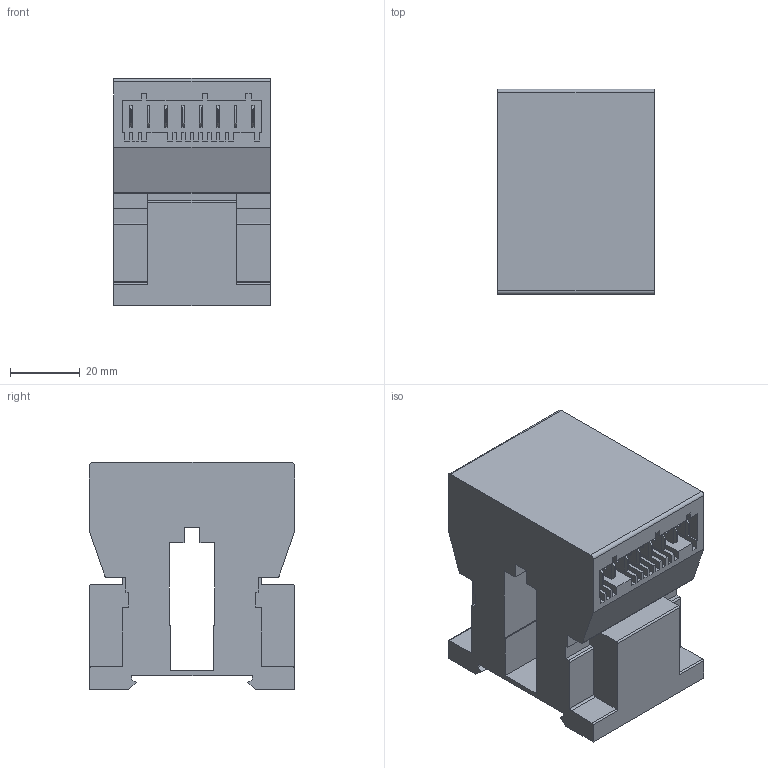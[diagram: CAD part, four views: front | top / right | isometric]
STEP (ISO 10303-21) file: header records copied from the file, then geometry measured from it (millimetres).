
FILE_DESCRIPTION (( 'STEP AP203' ), '1' );
FILE_NAME ('K3-10R B04B03B04.STEP', '2012-04-13T09:20:23', ( 'schulung' ), ( 'Microsoft' ), 'SwSTEP 2.0', 'SolidWorks 2012', '' );
FILE_SCHEMA (( 'CONFIG_CONTROL_DESIGN' ));
Length unit declared in the file: millimetre
Products named in the file (1): K3-10R B04B03B04
Bounding box: 45 x 59 x 65.3 mm (x, y, z)
Volume: 118453 mm3; surface area: 32759.1 mm2
Topology: 1 solids, 1 shells, 509 faces, 1452 edges, 968 vertices
Faces by surface type: plane 451, cylinder 58
Entity records: 16503 total; most frequent: CARTESIAN_POINT 2930, ORIENTED_EDGE 2904, DIRECTION 2588, EDGE_CURVE 1452, VECTOR 1336, LINE 1336, VERTEX_POINT 968, AXIS2_PLACEMENT_3D 626
